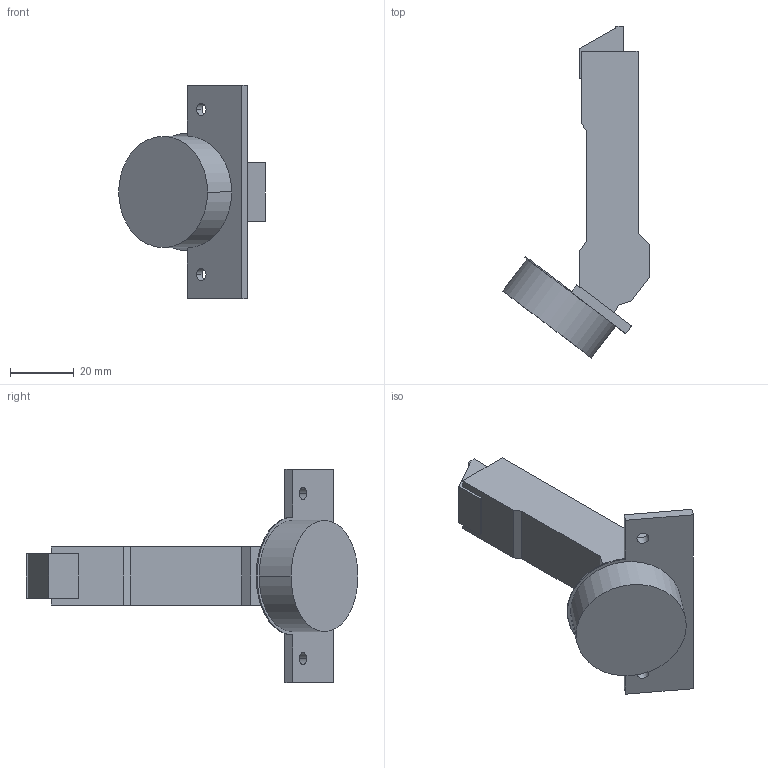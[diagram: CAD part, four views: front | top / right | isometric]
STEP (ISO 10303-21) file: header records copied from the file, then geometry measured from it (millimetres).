
FILE_DESCRIPTION (( 'STEP AP214' ), '1' );
FILE_NAME ('Scharnier TT Click-on 110°_+37° H_BB, aufliegend.step', '2010-12-13T10:21:15', ( 'grass' ), ( '' ), 'SwSTEP 2.0', 'SolidWorks 2010', '' );
FILE_SCHEMA (( 'AUTOMOTIVE_DESIGN' ));
Length unit declared in the file: millimetre
Products named in the file (1): Scharnier TT Click-on 110°_+37° H_BB, aufliegend
Bounding box: 46.13 x 104.41 x 67 mm (x, y, z)
Volume: 43049.7 mm3; surface area: 12190.9 mm2
Topology: 1 solids, 1 shells, 48 faces, 123 edges, 82 vertices
Faces by surface type: plane 35, cylinder 13
Entity records: 1495 total; most frequent: CARTESIAN_POINT 254, DIRECTION 247, ORIENTED_EDGE 246, EDGE_CURVE 123, LINE 97, VECTOR 97, VERTEX_POINT 82, AXIS2_PLACEMENT_3D 75
